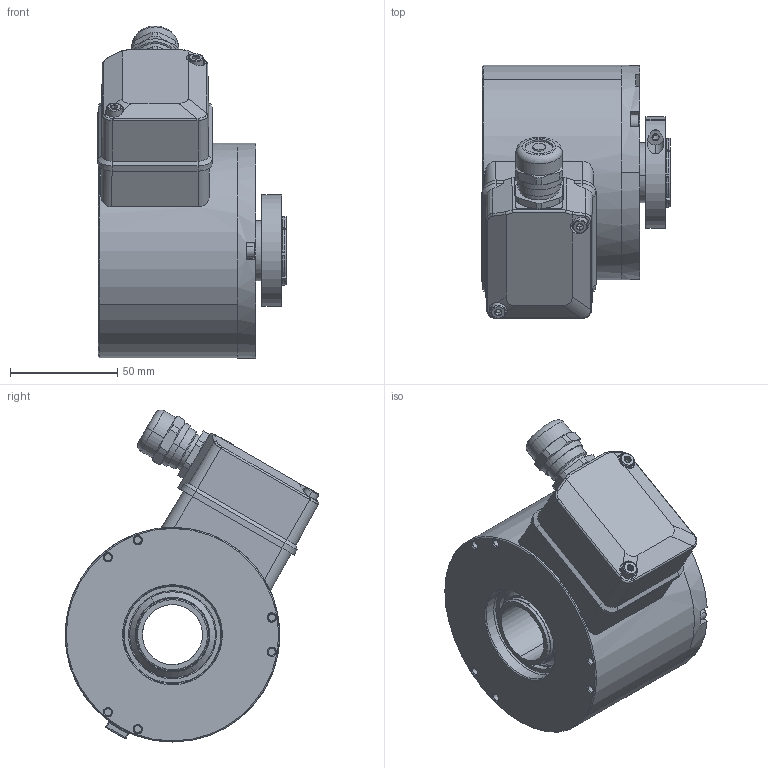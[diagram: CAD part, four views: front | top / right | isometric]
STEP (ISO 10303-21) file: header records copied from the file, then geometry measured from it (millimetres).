
FILE_DESCRIPTION (( 'STEP AP214' ), '1' );
FILE_NAME ('8.H120.17XK.XXXX.STEP', '2014-03-26T07:09:57', ( 'HeirlerN' ), ( 'Microsoft' ), 'SwSTEP 2.0', 'SolidWorks 2013', '' );
FILE_SCHEMA (( 'AUTOMOTIVE_DESIGN' ));
Length unit declared in the file: millimetre
Products named in the file (1): 8.H120.17XK.XXXX
Bounding box: 87.61 x 118.2 x 154.69 mm (x, y, z)
Surface area: 71664.6 mm2 (no closed solid volume)
Topology: 0 solids, 19 shells, 509 faces, 1502 edges, 991 vertices
Faces by surface type: cylinder 222, plane 134, cone 122, bspline 15, torus 12, sphere 4
Entity records: 23568 total; most frequent: CARTESIAN_POINT 4280, DIRECTION 3024, ORIENTED_EDGE 2661, EDGE_CURVE 1494, AXIS2_PLACEMENT_3D 1185, VERTEX_POINT 991, CIRCLE 690, LINE 654
